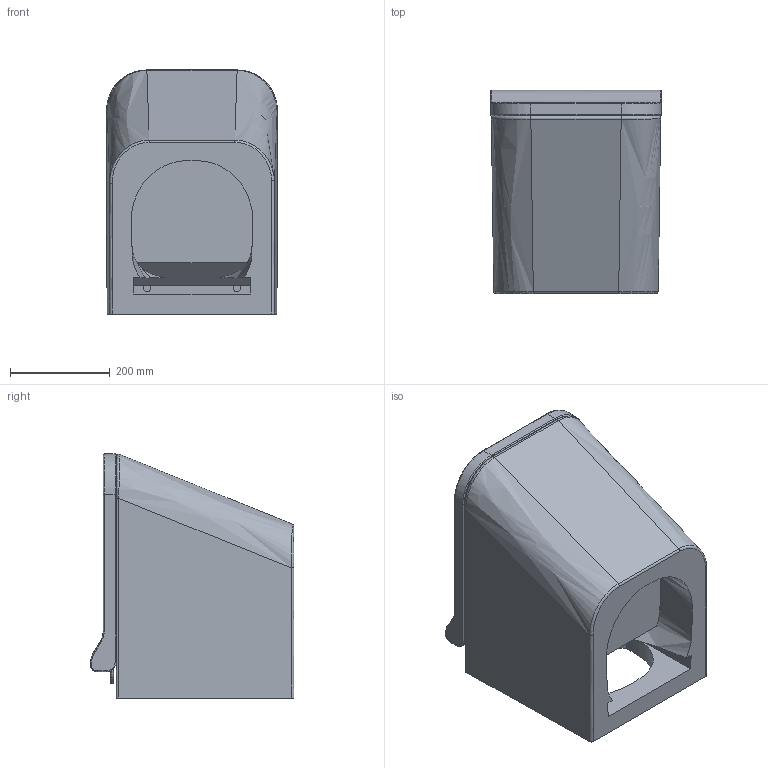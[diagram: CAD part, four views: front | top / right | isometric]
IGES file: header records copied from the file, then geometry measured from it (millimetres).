
Global section: file name: 04d0df52-3823-4d07-b323-66e316f5116f; native system: unknown; preprocessor: unknown; author: unknown; organization: unknown; date: 20200702.105740; units: millimetre
Bounding box: 342 x 407.02 x 488.03 mm (x, y, z)
Volume: 29225902 mm3; surface area: 1771328.4 mm2
Topology: 5 solids, 5 shells, 353 faces, 889 edges, 553 vertices
Faces by surface type: bspline 353
